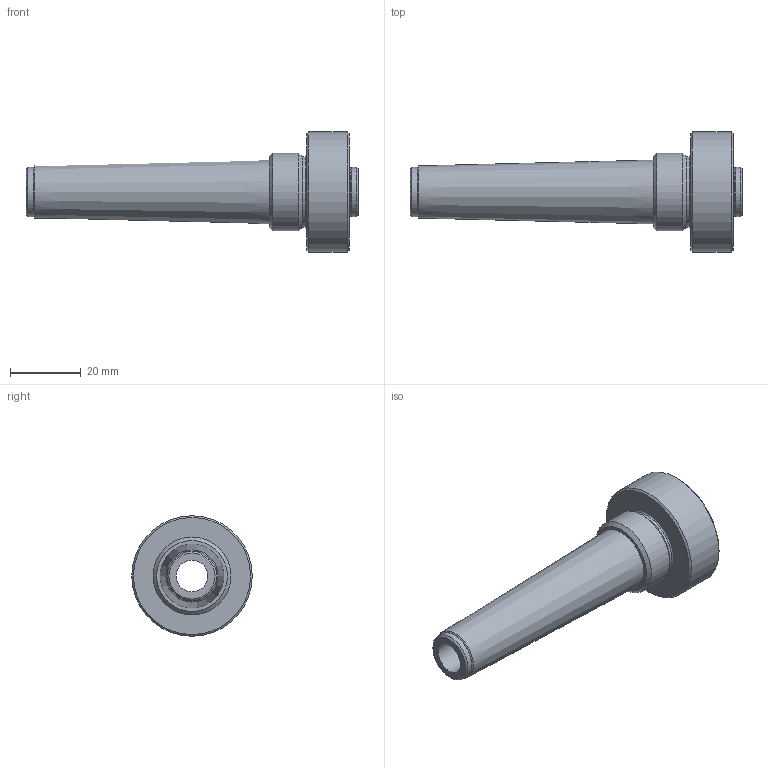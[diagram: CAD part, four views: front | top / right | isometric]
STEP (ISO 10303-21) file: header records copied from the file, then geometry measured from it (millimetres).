
FILE_DESCRIPTION(/* description */ ('Aufnahme MK2'),/* implementation_level */ '2;1');
FILE_NAME(/* name */ 'Y:\Futter\Synchronisation Ordner\(2) Dateien für Webseite\Morse MK2\DBF34_99-02 Aufnahme MK2.stp',/* time_stamp */ '2022-01-29T18:52:02+01:00',/* author */ ('MKoch'),/* organization */ (''),/* preprocessor_version */ 'ST-DEVELOPER v15.2',/* originating_system */ 'Autodesk Inventor 2014',/* authorisation */ '');
FILE_SCHEMA (('CONFIG_CONTROL_DESIGN'));
Length unit declared in the file: millimetre
Products named in the file (1): DBF34_99-02 Aufnahme MK2
Bounding box: 93.67 x 34 x 34 mm (x, y, z)
Volume: 20922.3 mm3; surface area: 10393.8 mm2
Topology: 1 solids, 1 shells, 33 faces, 74 edges, 44 vertices
Faces by surface type: cone 14, cylinder 11, plane 6, torus 2
Full cylindrical faces by diameter (mm): 1.567 x3, 8.917 x1, 12.1 x1, 13.6 x1, 14 x2, 20 x1, 22 x1, 34 x1
Entity records: 760 total; most frequent: CARTESIAN_POINT 146, DIRECTION 138, ORIENTED_EDGE 76, AXIS2_PLACEMENT_3D 69, EDGE_LOOP 63, EDGE_CURVE 38, FACE_BOUND 35, CIRCLE 35
